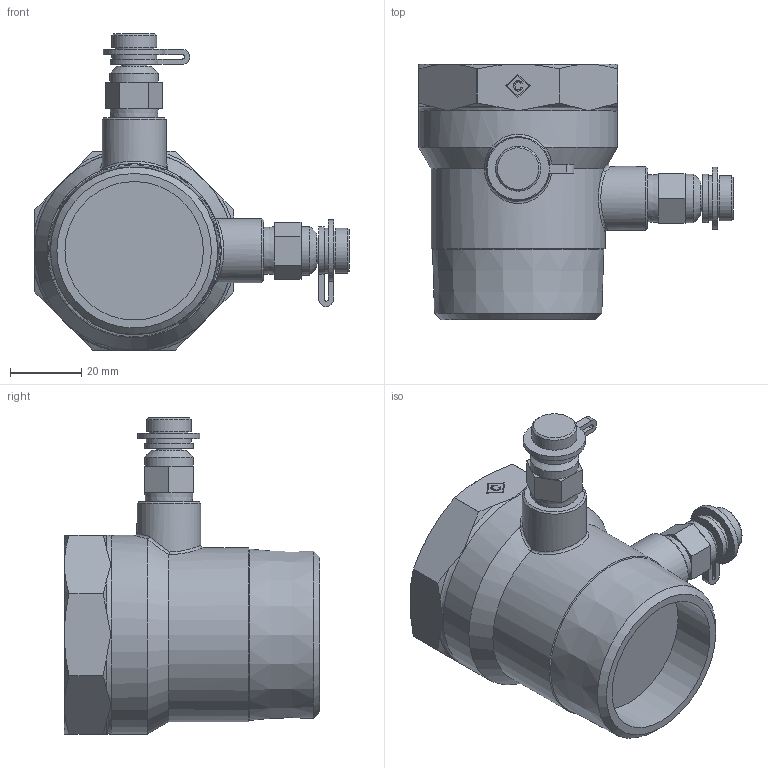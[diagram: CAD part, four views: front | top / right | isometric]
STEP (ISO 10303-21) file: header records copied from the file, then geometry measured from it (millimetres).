
FILE_DESCRIPTION((''),'2;1');
FILE_NAME('P:\Fastrack\53972_CRANE 3D\Workspace\D901_1 1-2in\D901_1 1-2in.stp','2011-01-11T15:43:09',('btaylor'),(''),'Autodesk Inventor 2008','Autodesk Inventor 2008','');
FILE_SCHEMA(('AUTOMOTIVE_DESIGN { 1 0 10303 214 1 1 1 1 }'));
Length unit declared in the file: millimetre
Products named in the file (1): D901_1 1-2in
Bounding box: 88.61 x 72 x 89.11 mm (x, y, z)
Volume: 133447.8 mm3; surface area: 23841.5 mm2
Topology: 1 solids, 1 shells, 154 faces, 374 edges, 241 vertices
Faces by surface type: plane 75, cylinder 32, cone 28, bspline 19
Full cylindrical faces by diameter (mm): 7.4 x2, 11 x2, 12.7 x2, 13.7 x2, 18 x2, 49 x1, 56 x1
Entity records: 6340 total; most frequent: CARTESIAN_POINT 2871, ORIENTED_EDGE 672, DIRECTION 626, EDGE_CURVE 336, AXIS2_PLACEMENT_3D 246, VERTEX_POINT 229, EDGE_LOOP 203, STYLED_ITEM 155
